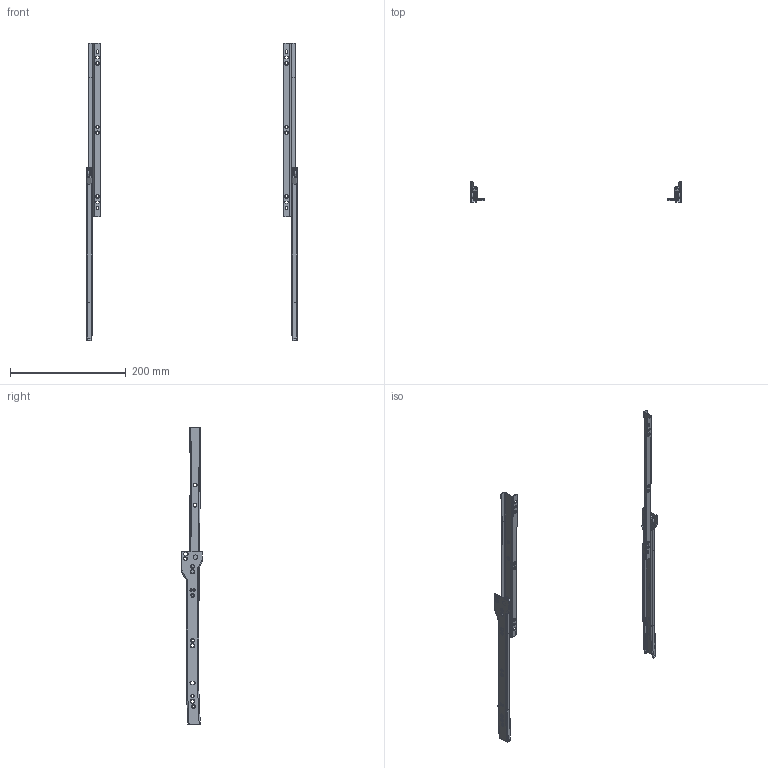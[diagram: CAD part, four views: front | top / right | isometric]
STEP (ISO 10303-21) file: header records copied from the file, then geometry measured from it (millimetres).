
FILE_DESCRIPTION(/* description */ (''),/* implementation_level */ '2;1');
FILE_NAME(/* name */ 'D:\$Workingspace\Designs\Katalog\Cadsoft\GTV Prowadnice\Prowadnice GTV_bryły 3D\PR-SP-300-10_wysunieta.stp',/* time_stamp */ '2016-11-22T15:23:56+01:00',/* author */ ('tomaszw'),/* organization */ (''),/* preprocessor_version */ 'ST-DEVELOPER v16.1',/* originating_system */ 'Autodesk Inventor 2016',/* authorisation */ '');
FILE_SCHEMA (('AUTOMOTIVE_DESIGN { 1 0 10303 214 3 1 1 }'));
Length unit declared in the file: millimetre
Products named in the file (5): PR-SP-300-10_CL; PR-SP-300-10_CR; PR-SP-300-10_DL; PR-SP-300-10_DR; PR-SP
Assembly tree (4 placements, depth 2):
  PR-SP
    PR-SP-300-10_CL
    PR-SP-300-10_CR
    PR-SP-300-10_DL
    PR-SP-300-10_DR
Bounding box: 364 x 36 x 515 mm (x, y, z)
Volume: 57671.3 mm3; surface area: 92928.8 mm2
Topology: 4 solids, 4 shells, 416 faces, 1040 edges, 644 vertices
Faces by surface type: cylinder 182, plane 158, cone 40, torus 28, sphere 8
Full cylindrical faces by diameter (mm): 5 x4, 5.4 x20, 5.5 x2, 6.4 x6, 7 x4, 8 x4, 18.5 x4
Entity records: 12729 total; most frequent: CARTESIAN_POINT 2207, DIRECTION 2188, ORIENTED_EDGE 1896, EDGE_CURVE 948, AXIS2_PLACEMENT_3D 829, VERTEX_POINT 636, EDGE_LOOP 604, LINE 530
